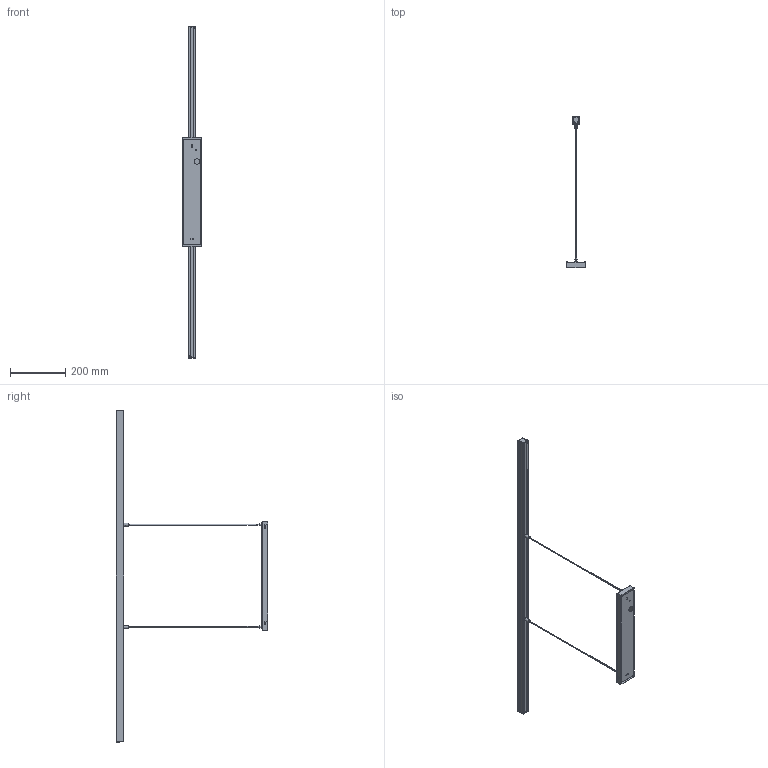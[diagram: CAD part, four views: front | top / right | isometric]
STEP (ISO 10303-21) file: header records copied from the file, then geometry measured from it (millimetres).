
FILE_DESCRIPTION (( 'STEP AP214' ), '1' );
FILE_NAME ('2000787 Pendelleichte ICE Emotion.STEP', '2022-11-03T09:33:23', ( '' ), ( '' ), 'SwSTEP 2.0', 'SolidWorks 2021', '' );
FILE_SCHEMA (( 'AUTOMOTIVE_DESIGN' ));
Length unit declared in the file: millimetre
Products named in the file (9): Konverterverkleidung; Abdeckung Pendelleuchte ICE Emotion_1196; Seilhalter f. Pendelleuchte; Ice_Profil_1700714_715_716_1200; 1432596-1432595_Endkappe Ice Profil; Konverteraufnahme; 2000787 Pendelleichte ICE Emotion; Seil; Seilhalter chrom für Haltevorrichtung für die Höhenjustierung, Gewinde = M10, Chrom
Assembly tree (12 placements, depth 2):
  2000787 Pendelleichte ICE Emotion
    Konverterverkleidung
    Konverteraufnahme
    Ice_Profil_1700714_715_716_1200
    Abdeckung Pendelleuchte ICE Emotion_1196
    1432596-1432595_Endkappe Ice Profil  x2
    Seilhalter f. Pendelleuchte  x2
    Seilhalter chrom für Haltevorrichtung für die Höhenjustierung, Gewinde = M10, Chrom  x2
    Seil  x2
Bounding box: 68.6 x 546.51 x 1200 mm (x, y, z)
Volume: 277559 mm3; surface area: 475572.2 mm2
Topology: 12 solids, 12 shells, 691 faces, 1745 edges, 1056 vertices
Faces by surface type: cylinder 329, plane 258, torus 60, bspline 36, sphere 4, cone 4
Entity records: 16141 total; most frequent: CARTESIAN_POINT 4109, DIRECTION 2542, ORIENTED_EDGE 2372, EDGE_CURVE 1186, AXIS2_PLACEMENT_3D 939, VERTEX_POINT 743, LINE 664, VECTOR 664
